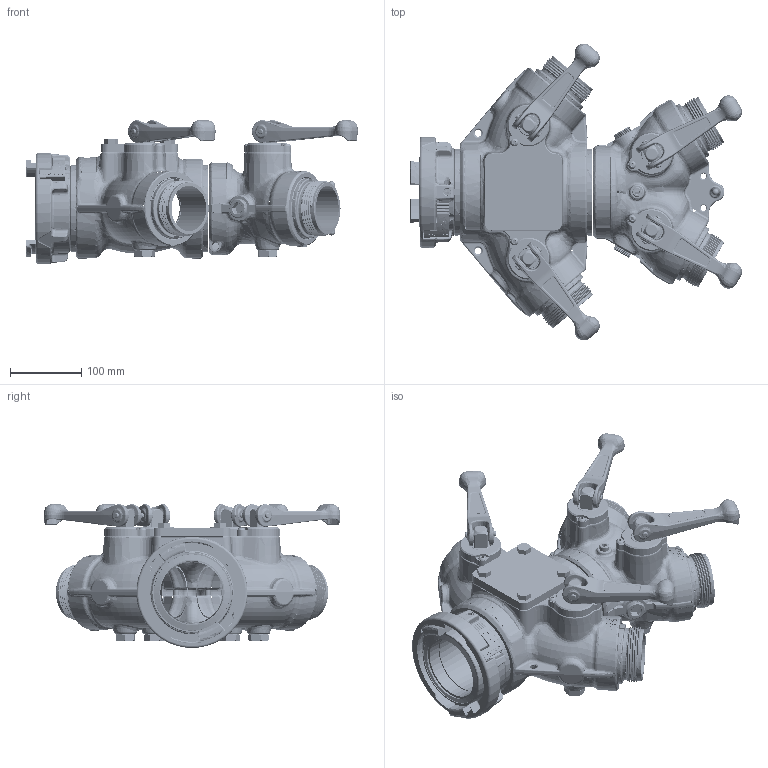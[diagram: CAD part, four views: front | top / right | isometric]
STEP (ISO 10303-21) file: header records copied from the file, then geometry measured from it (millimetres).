
FILE_DESCRIPTION (( 'STEP AP203' ), '1' );
FILE_NAME ('AL41P0.step', '2014-05-13T19:00:24', ( 'user' ), ( '' ), 'SwSTEP 2.0', 'SolidWorks 2012', '' );
FILE_SCHEMA (( 'CONFIG_CONTROL_DESIGN' ));
Length unit declared in the file: inch
Products named in the file (1): AL41P0
Bounding box: 465.71 x 416.54 x 201.53 mm (x, y, z)
Surface area: 673615 mm2 (no closed solid volume)
Topology: 0 solids, 121 shells, 4059 faces, 12582 edges, 8194 vertices
Faces by surface type: bspline 1238, cylinder 831, cone 744, plane 694, torus 503, sphere 49
Entity records: 223797 total; most frequent: CARTESIAN_POINT 128426, ORIENTED_EDGE 20836, DIRECTION 16653, EDGE_CURVE 12399, VERTEX_POINT 8173, AXIS2_PLACEMENT_3D 6762, B_SPLINE_CURVE_WITH_KNOTS 4504, EDGE_LOOP 4311
